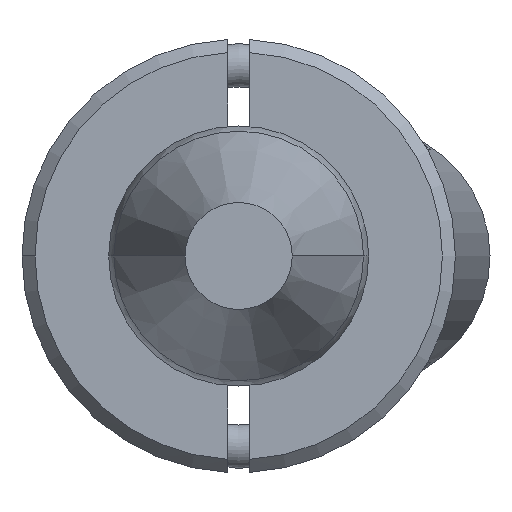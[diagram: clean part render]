
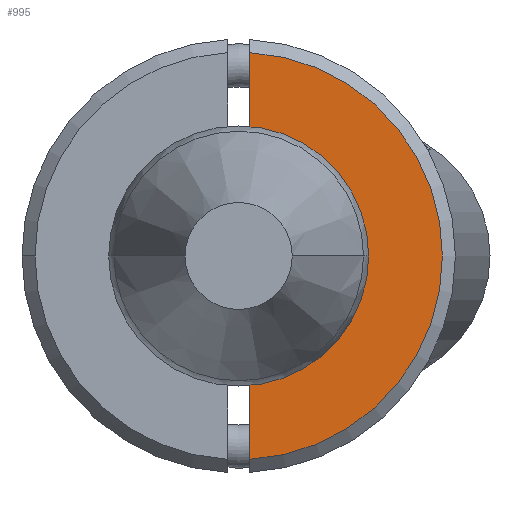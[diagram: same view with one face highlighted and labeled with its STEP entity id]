
A CAD part, front view. The second image highlights one B-rep face of the part: STEP entity #995.
In plain terms, the highlighted planar face has unit normal (0, -1, 0).
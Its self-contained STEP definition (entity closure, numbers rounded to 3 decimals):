
#24 = ORIENTED_EDGE ( 'NONE', *, *, #2247, .T. ) ;
#132 = CIRCLE ( 'NONE', #2299, 2.45 ) ;
#288 = CARTESIAN_POINT ( 'NONE',  ( -5., -6., 0. ) ) ;
#351 = DIRECTION ( 'NONE',  ( 0., -1., 0. ) ) ;
#462 = CIRCLE ( 'NONE', #837, 2.45 ) ;
#573 = ORIENTED_EDGE ( 'NONE', *, *, #2645, .T. ) ;
#584 = DIRECTION ( 'NONE',  ( 0., 0., -1. ) ) ;
#727 = CARTESIAN_POINT ( 'NONE',  ( -4.693, -6., -0.25 ) ) ;
#837 = AXIS2_PLACEMENT_3D ( 'NONE', #2191, #1892, #1319 ) ;
#881 = EDGE_CURVE ( 'NONE', #2980, #1923, #3719, .T. ) ;
#953 = EDGE_LOOP ( 'NONE', ( #1457, #24, #1130, #573, #1271 ) ) ;
#995 = ADVANCED_FACE ( 'NONE', ( #3519 ), #1779, .T. ) ;
#1074 = CARTESIAN_POINT ( 'NONE',  ( -5., -6., -0.25 ) ) ;
#1130 = ORIENTED_EDGE ( 'NONE', *, *, #881, .F. ) ;
#1271 = ORIENTED_EDGE ( 'NONE', *, *, #2791, .T. ) ;
#1319 = DIRECTION ( 'NONE',  ( 0., 0., -1. ) ) ;
#1457 = ORIENTED_EDGE ( 'NONE', *, *, #2435, .F. ) ;
#1459 = VERTEX_POINT ( 'NONE', #3676 ) ;
#1523 = CARTESIAN_POINT ( 'NONE',  ( 0., -6., 0. ) ) ;
#1675 = CARTESIAN_POINT ( 'NONE',  ( 2.437, -6., -0.25 ) ) ;
#1779 = PLANE ( 'NONE',  #3752 ) ;
#1892 = DIRECTION ( 'NONE',  ( 0., 1., 0. ) ) ;
#1923 = VERTEX_POINT ( 'NONE', #1988 ) ;
#1988 = CARTESIAN_POINT ( 'NONE',  ( 4.693, -6., -0.25 ) ) ;
#2162 = VERTEX_POINT ( 'NONE', #2704 ) ;
#2191 = CARTESIAN_POINT ( 'NONE',  ( 0., -6., 0. ) ) ;
#2219 = VERTEX_POINT ( 'NONE', #727 ) ;
#2247 = EDGE_CURVE ( 'NONE', #2219, #1923, #3363, .T. ) ;
#2248 = VECTOR ( 'NONE', #3018, 1000. ) ;
#2299 = AXIS2_PLACEMENT_3D ( 'NONE', #1523, #3282, #3531 ) ;
#2331 = CARTESIAN_POINT ( 'NONE',  ( -5., -6., -0.25 ) ) ;
#2374 = AXIS2_PLACEMENT_3D ( 'NONE', #3064, #3117, #2450 ) ;
#2435 = EDGE_CURVE ( 'NONE', #2219, #2162, #3305, .T. ) ;
#2450 = DIRECTION ( 'NONE',  ( 0., 0., -1. ) ) ;
#2645 = EDGE_CURVE ( 'NONE', #2980, #1459, #462, .T. ) ;
#2704 = CARTESIAN_POINT ( 'NONE',  ( -2.437, -6., -0.25 ) ) ;
#2791 = EDGE_CURVE ( 'NONE', #1459, #2162, #132, .T. ) ;
#2940 = VECTOR ( 'NONE', #3155, 1000. ) ;
#2980 = VERTEX_POINT ( 'NONE', #1675 ) ;
#3018 = DIRECTION ( 'NONE',  ( 1., 0., 0. ) ) ;
#3064 = CARTESIAN_POINT ( 'NONE',  ( 0., -6., 0. ) ) ;
#3117 = DIRECTION ( 'NONE',  ( 0., -1., 0. ) ) ;
#3155 = DIRECTION ( 'NONE',  ( 1., 0., 0. ) ) ;
#3282 = DIRECTION ( 'NONE',  ( 0., 1., 0. ) ) ;
#3305 = LINE ( 'NONE', #2331, #2248 ) ;
#3363 = CIRCLE ( 'NONE', #2374, 4.7 ) ;
#3519 = FACE_OUTER_BOUND ( 'NONE', #953, .T. ) ;
#3531 = DIRECTION ( 'NONE',  ( 0., 0., -1. ) ) ;
#3676 = CARTESIAN_POINT ( 'NONE',  ( 0., -6., -2.45 ) ) ;
#3719 = LINE ( 'NONE', #1074, #2940 ) ;
#3752 = AXIS2_PLACEMENT_3D ( 'NONE', #288, #351, #584 ) ;
